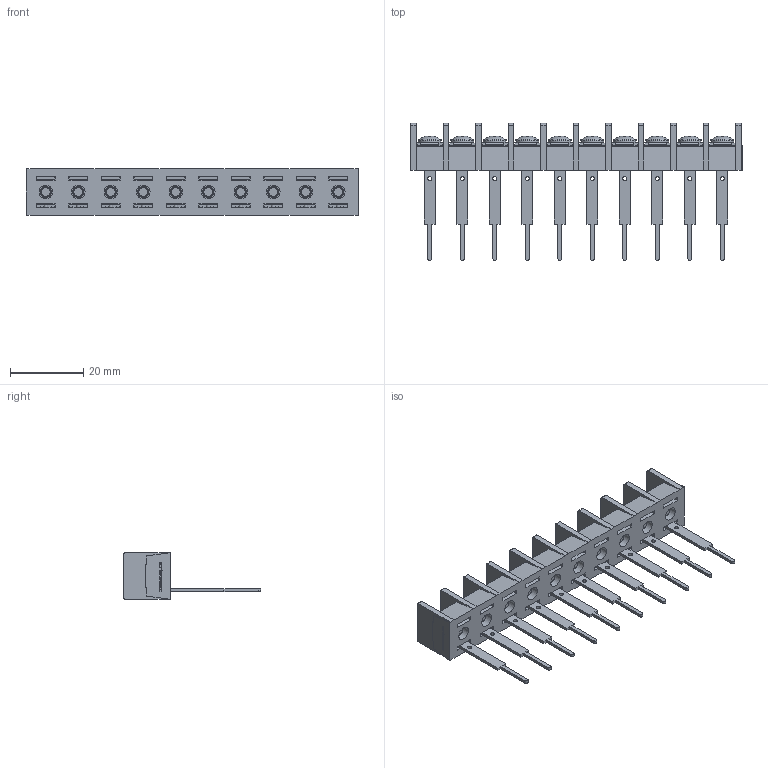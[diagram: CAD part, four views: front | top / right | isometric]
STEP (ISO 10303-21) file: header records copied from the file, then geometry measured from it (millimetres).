
FILE_DESCRIPTION(/* description */ ('Alibre Inc.'),/* implementation_level */ '2;1');
FILE_NAME(/* name */ 'export0',/* time_stamp */ '2015-10-20T20:10:35+09:00',/* author */ (''),/* organization */ (''),/* preprocessor_version */ 'ST-DEVELOPER v14',/* originating_system */ 'Alibre',/* authorisation */ '');
FILE_SCHEMA (('CONFIG_CONTROL_DESIGN'));
Length unit declared in the file: centimetre
Products named in the file (1): ID_1
Bounding box: 90.81 x 37.5 x 12.8 mm (x, y, z)
Volume: 8874.9 mm3; surface area: 11987 mm2
Topology: 1 solids, 161 shells, 3250 faces, 8390 edges, 5552 vertices
Faces by surface type: plane 2434, bspline 624, cylinder 112, cone 50, torus 20, sphere 10
Full cylindrical faces by diameter (mm): 1.1 x10, 3 x10, 3.7 x10, 4.6 x10, 6.3 x10
Entity records: 94521 total; most frequent: CARTESIAN_POINT 23027, ORIENTED_EDGE 16560, DIRECTION 9914, EDGE_CURVE 8280, VECTOR 6356, LINE 6356, VERTEX_POINT 5522, EDGE_LOOP 3580
